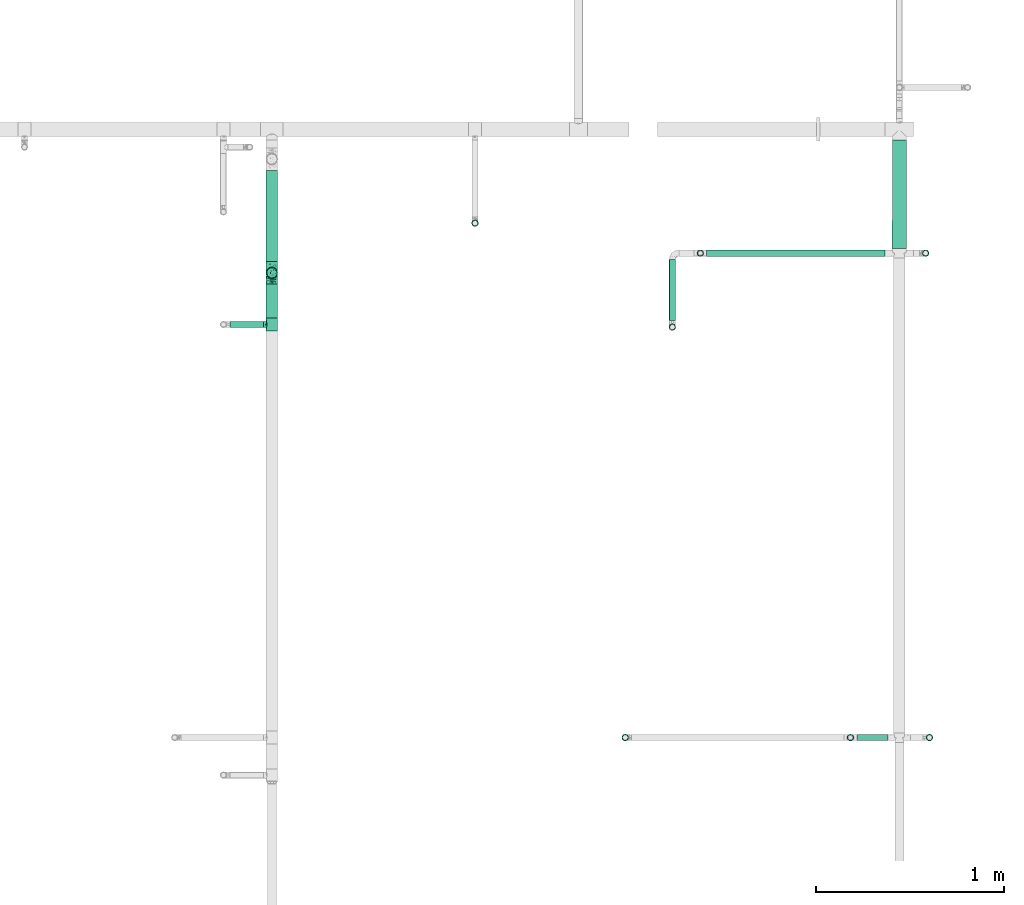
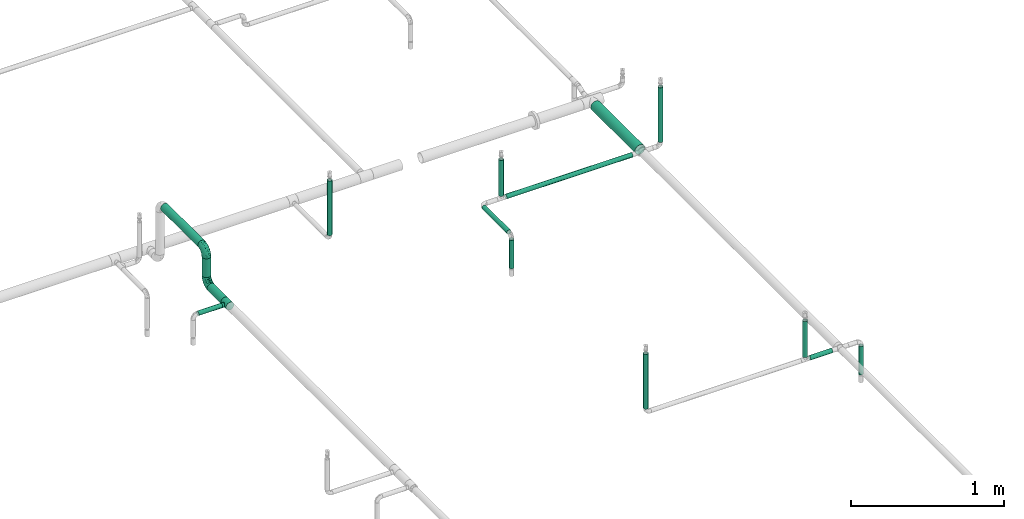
# One storey, part 15 of 157: 15 flow segments, 3 flow fittings.
"""IFC2X3 building model written with IfcOpenShell, lengths in millimetres."""

from ifc_helpers import new_model, entity, si_unit, converted_unit, derived_unit, direction, frame, origin_with_axes, origin_2d_with_axis, place, context, subcontext, project, spatial, hollow_circle, extrude, open_shell, surface_model, source, transform, mapped, type_object, element, save


model = new_model("IFC2X3")

# Units and contexts
model_context = context("Model", 3, precision=0.01, world=frame((0.0, 4.29681676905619e-09, 0.0)), true_north=direction((4.01073788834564e-13, 1.0)))
plan_context = context("Plan", 3, precision=0.01, world=frame((0.0, 4.29681676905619e-09, 0.0)), true_north=direction((4.01073788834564e-13, 1.0)))
body_context = subcontext(model_context, "Body", "Model", "MODEL_VIEW")
ifc_project = project(units=[converted_unit("PLANEANGLEUNIT", "DEGREE", entity("IfcPositiveLengthMeasure", 0.0174532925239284), si_unit("PLANEANGLEUNIT", "RADIAN"), dimensions=[0, 0, 0, 0, 0, 0, 0]), si_unit("AREAUNIT", "SQUARE_METRE"), si_unit("LENGTHUNIT", "METRE", prefix="MILLI"), si_unit("MASSUNIT", "GRAM", prefix="KILO"), si_unit("POWERUNIT", "WATT"), si_unit("PRESSUREUNIT", "PASCAL"), si_unit("FORCEUNIT", "NEWTON", prefix="KILO"), si_unit("ELECTRICCURRENTUNIT", "AMPERE"), si_unit("THERMODYNAMICTEMPERATUREUNIT", "DEGREE_CELSIUS"), si_unit("TIMEUNIT", "SECOND"), si_unit("VOLUMEUNIT", "CUBIC_METRE"), derived_unit("LINEARVELOCITYUNIT", [(si_unit("LENGTHUNIT", "METRE"), 1), (si_unit("TIMEUNIT", "SECOND"), -1)]), derived_unit("VOLUMETRICFLOWRATEUNIT", [(si_unit("VOLUMEUNIT", "CUBIC_METRE"), 1), (si_unit("TIMEUNIT", "SECOND"), -1)]), derived_unit("THERMALTRANSMITTANCEUNIT", [(si_unit("POWERUNIT", "WATT"), 1), (si_unit("THERMODYNAMICTEMPERATUREUNIT", "KELVIN"), -1), (si_unit("AREAUNIT", "SQUARE_METRE"), -1)])], contexts=[model_context, plan_context])

# Site, building, storey
site_placement = place(None, frame((0.0, -4.29681676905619e-09, 0.0), z_axis=(0.0, 0.0, 1.0), x_axis=(1.0, 0.0, 0.0)))
site = spatial("IfcSite", under=ifc_project, at=site_placement, CompositionType="ELEMENT")
building_placement = place(site_placement, frame((0.0, 4.29681676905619e-09, 0.0), z_axis=(0.0, 0.0, 1.0), x_axis=(1.0, 0.0, 0.0)))
building = spatial("IfcBuilding", under=site, at=building_placement, Name="mc-building", CompositionType="ELEMENT")
storey_placement = place(building_placement, frame((0.0, 0.0, 204000.0), z_axis=(0.0, 0.0, 1.0), x_axis=(1.0, 0.0, 0.0)))
storey = spatial("IfcBuildingStorey", under=building, at=storey_placement, Name="Nivå D", CompositionType="ELEMENT", Elevation=204000.0)

# Flow fittings
pipe_fitting_type_1 = type_object("IfcPipeFittingType", Name="magi_pipe_fe_elbow_short_001", PredefinedType="BEND")
shared_shape_1 = source(origin_with_axes(), body_context, "Body", "SurfaceModel", [
    surface_model("IfcShellBasedSurfaceModel", [(-60.4, 15.1, -26.15397), (-60.4, 7.81634, -29.17096), (-60.4, 0.0, -30.2), (-60.4, -21.35462, -21.35462), (-60.4, 26.15397, -15.1), (-60.4, 21.35462, -21.35462), (-60.4, 29.17096, -7.81634), (-60.4, -15.1, -26.15397), (-60.4, -7.81634, -29.17096), (-60.4, -26.15397, -15.1), (-60.4, -29.17096, -7.81634), (-60.4, -30.2, 0.0), (-60.4, -29.17096, 7.81634), (-60.4, 29.17096, 7.81634), (-60.4, -21.35462, 21.35462), (-60.4, 26.15397, 15.1), (-60.4, 21.35462, 21.35462), (-60.4, 7.81634, 29.17096), (-60.4, 15.1, 26.15397), (-60.4, -26.15397, 15.1), (-60.4, -7.81634, 29.17096), (-60.4, 0.0, 30.2), (-60.4, -15.1, 26.15397), (-60.4, 30.2, 0.0), (0.0, 60.4, -30.2), (-7.81634, 60.4, -29.17096), (-15.1, 60.4, -26.15397), (-26.15397, 60.4, -15.1), (-29.17096, 60.4, -7.81634), (-21.35462, 60.4, -21.35462), (29.17096, 60.4, -7.81634), (7.81634, 60.4, -29.17096), (21.35462, 60.4, -21.35462), (15.1, 60.4, -26.15397), (26.15397, 60.4, -15.1), (29.17096, 60.4, 7.81634), (30.2, 60.4, 0.0), (-29.17096, 60.4, 7.81634), (21.35462, 60.4, 21.35462), (-21.35462, 60.4, 21.35462), (-26.15397, 60.4, 15.1), (-15.1, 60.4, 26.15397), (-7.81634, 60.4, 29.17096), (26.15397, 60.4, 15.1), (15.1, 60.4, 26.15397), (0.0, 60.4, 30.2), (7.81634, 60.4, 29.17096), (-30.2, 60.4, 0.0), (-40.79975, -26.48639, 9.49143), (-44.2927, -23.46036, 16.95222), (-32.40306, -25.76572, 0.0), (-45.54716, -27.84754, 0.0), (-7.73382, -10.42985, 11.64553), (-2.102, -8.06735, 6.35117), (1.74449, -1.74448, 12.51332), (-46.13593, -4.00068, 29.68351), (-42.2898, 4.62925, 30.14853), (10.31662, 7.37496, 11.34434), (18.44156, 24.57514, 15.02148), (7.07276, 10.95732, 19.27498), (-30.06693, -0.27102, 29.27145), (-44.17726, -11.39441, 27.16031), (-23.4551, -7.13383, 25.24246), (-38.74025, -17.25266, 22.43475), (-27.059, -23.14697, 6.2131), (-19.77486, -19.33133, 0.0), (-10.95732, -7.07276, 19.27498), (-5.39458, 5.39458, 24.69106), (-29.52069, 48.20084, 13.12597), (-25.22813, 47.01796, 19.8404), (-11.27311, 52.093, 28.2877), (-4.13904, 45.17494, 30.12582), (-46.55352, 11.8443, 28.52822), (-7.88305, 20.22717, 29.65331), (-15.00576, 5.54025, 28.20072), (-3.0852, 16.31623, 27.75343), (-52.24998, 18.2886, 24.60768), (-10.49591, 29.69865, 30.14582), (-22.36958, 22.36958, 29.4662), (-17.98262, 13.19715, 30.04443), (-47.74519, 32.16745, 6.63994), (-48.21585, 29.51581, 13.12396), (-37.49729, 37.49729, 11.28901), (-47.20967, 25.1754, 19.81929), (17.25266, 38.74025, 22.43475), (-31.32046, 40.03273, 17.09289), (11.39441, 44.17725, 27.16031), (23.46036, 44.2927, 16.95222), (26.48639, 40.79975, 9.49143), (-7.14666, -12.89694, 0.0), (-14.66463, -16.61192, 7.82462), (4.00068, 46.13593, 29.68351), (-33.18602, 12.93608, 29.65955), (-29.63414, 7.40029, 30.18711), (19.33133, 19.77486, 0.0), (23.14697, 27.059, 6.2131), (16.61192, 14.66463, 7.82462), (27.84754, 45.54716, 0.0), (-32.10611, 20.49149, 27.93323), (-24.57514, -18.44156, 15.02148), (-21.89487, 39.03366, 25.38224), (-18.45005, 50.6405, 24.73297), (-31.78933, 48.71949, 6.47886), (-37.84917, 39.61073, 5.315), (13.91334, 24.32737, 20.46816), (7.13383, 23.4551, 25.24246), (-34.24603, 45.3, 0.0), (-27.95749, 31.89166, 24.81537), (-41.58677, 20.50028, 25.43151), (-0.46157, 0.46157, 17.84239), (-17.23338, 31.26213, 29.03145), (-24.05994, 29.23812, 27.47858), (-13.06094, 40.92174, 28.76128), (-31.83392, 33.72702, 21.39203), (-38.78737, 32.45032, 16.84022), (0.27102, 30.06693, 29.27145), (-24.21469, -13.23741, 21.05734), (8.23548, 2.19333, 6.02161), (25.76572, 32.40306, 0.0), (12.89694, 7.14666, 0.0), (-45.3, 34.24603, 0.0), (2.87514, -2.87514, 0.0), (-44.53432, 26.00869, -20.11577), (-48.18822, 29.5248, -13.12766), (-24.67192, -7.62159, -25.33714), (-26.22398, -0.37671, -28.72374), (-12.13397, -0.50536, -24.74577), (-47.80891, 3.81859, -30.10171), (-44.05719, -27.03585, -9.84546), (-37.94552, -22.39569, -16.35738), (-28.81663, -22.64668, -10.132), (-43.93799, 12.32789, -28.63778), (-33.27, 7.1392, -30.19348), (-26.0087, 44.53432, -20.11577), (-48.89164, 31.68872, -6.60822), (-18.95522, 47.41145, -24.9828), (-12.32789, 43.93799, -28.63778), (-38.42778, 38.42778, -7.21049), (18.04263, 43.69152, -22.80146), (10.42233, 38.24532, -26.85918), (11.90576, 51.00473, -27.48545), (-5.88381, -10.62327, -7.95335), (-5.9694, -7.83116, -13.76182), (3.24899, -2.56331, -7.96861), (-17.62229, 16.32998, -30.18286), (-28.62959, 17.86952, -29.30113), (-47.41145, 18.95522, -24.98279), (-50.84455, -24.04089, -17.54629), (-29.38053, 34.30665, -22.74674), (-27.91099, 27.91099, -26.51666), (-36.91219, 25.51094, -23.99233), (2.63361, -0.55507, -12.94367), (-43.69152, -18.04263, -22.80146), (22.39569, 37.94552, -16.35738), (27.03585, 44.05719, -9.84546), (22.64668, 28.81663, -10.132), (-51.00473, -11.90576, -27.48545), (3.80785, 44.49426, -29.64782), (-19.0921, -14.69952, -16.47487), (-22.5489, -12.31934, -21.1263), (-10.94772, -7.46239, -18.88204), (-32.95885, -13.78948, -23.71249), (-38.24532, -10.42233, -26.85918), (-44.49427, -3.80785, -29.64782), (-22.6301, 37.15314, -25.58239), (-31.68872, 48.89164, -6.60822), (-3.8186, 47.80891, -30.10171), (-10.66133, 10.66133, -28.51691), (0.37671, 26.22398, -28.72374), (1.27136, 14.18619, -25.18541), (-29.5248, 48.18821, -13.12766), (-36.27113, 36.27113, -14.88553), (24.04089, 50.84455, -17.54629), (17.50188, 24.2636, -16.21902), (9.73525, 11.44907, -16.75087), (12.31934, 22.5489, -21.1263), (6.24176, 25.78208, -26.38266), (-7.1392, 33.27, -30.19348), (-36.7166, 19.4356, -27.21946), (-18.00754, 29.38864, -29.15505), (-0.28629, 0.28629, -17.49884), (-13.98848, -16.88492, -5.19509), (15.48569, 15.00432, -11.24742), (16.88492, 13.98848, -5.19509), (3.55782, 9.20508, -21.18402), (-15.00432, -15.48569, -11.24742)], [open_shell([[[0, 1, 2]], [[0, 2, 3]], [[4, 0, 3]], [[5, 0, 4]], [[6, 4, 3]], [[7, 3, 8]], [[3, 2, 8]], [[9, 10, 3]], [[3, 10, 6]], [[11, 12, 10]], [[13, 6, 10]], [[13, 10, 14]], [[15, 13, 16]], [[17, 18, 16]], [[13, 17, 16]], [[17, 13, 14]], [[19, 14, 12]], [[12, 14, 10]], [[20, 21, 22]], [[17, 14, 22]], [[17, 22, 21]], [[13, 23, 6]], [[24, 25, 26]], [[24, 26, 27]], [[27, 28, 24]], [[27, 26, 29]], [[24, 28, 30]], [[31, 32, 33]], [[31, 24, 32]], [[32, 30, 34]], [[24, 30, 32]], [[30, 35, 36]], [[30, 28, 37]], [[38, 30, 37]], [[39, 37, 40]], [[39, 41, 42]], [[39, 42, 37]], [[38, 37, 42]], [[35, 38, 43]], [[30, 38, 35]], [[44, 45, 46]], [[44, 38, 42]], [[45, 44, 42]], [[28, 47, 37]], [[48, 49, 19]], [[50, 48, 51]], [[52, 53, 54]], [[12, 48, 19]], [[12, 51, 48]], [[21, 55, 56]], [[19, 49, 14]], [[57, 58, 59]], [[60, 61, 62]], [[63, 22, 14]], [[63, 61, 22]], [[64, 50, 65]], [[62, 66, 67]], [[40, 68, 69]], [[42, 70, 71]], [[17, 72, 18]], [[73, 74, 75]], [[18, 76, 16]], [[20, 55, 21]], [[77, 78, 79]], [[80, 81, 82]], [[15, 83, 81]], [[84, 38, 44]], [[23, 13, 80]], [[13, 15, 81]], [[68, 85, 69]], [[83, 15, 16]], [[21, 56, 17]], [[44, 86, 84]], [[16, 76, 83]], [[87, 58, 88]], [[40, 37, 68]], [[89, 90, 65]], [[45, 91, 46]], [[65, 90, 64]], [[45, 42, 71]], [[92, 93, 79]], [[88, 35, 43]], [[43, 38, 87]], [[87, 88, 43]], [[94, 95, 96]], [[88, 97, 35]], [[98, 72, 92]], [[49, 99, 63]], [[69, 100, 101]], [[82, 102, 103]], [[104, 105, 59]], [[106, 102, 47]], [[98, 107, 108]], [[102, 82, 68]], [[86, 44, 46]], [[69, 39, 40]], [[109, 54, 57]], [[110, 100, 111]], [[22, 61, 20]], [[101, 41, 39]], [[70, 42, 41]], [[112, 77, 71]], [[84, 86, 105]], [[96, 95, 58]], [[100, 69, 113]], [[72, 17, 56]], [[108, 113, 83]], [[81, 114, 82]], [[112, 110, 77]], [[91, 71, 115]], [[62, 61, 63]], [[55, 61, 60]], [[116, 99, 66]], [[74, 62, 67]], [[91, 86, 46]], [[105, 86, 115]], [[75, 105, 115]], [[109, 67, 66]], [[59, 105, 67]], [[48, 64, 99]], [[99, 49, 48]], [[63, 14, 49]], [[38, 84, 87]], [[58, 87, 84]], [[92, 72, 56]], [[76, 72, 108]], [[102, 68, 37]], [[82, 114, 85]], [[98, 111, 107]], [[112, 70, 101]], [[114, 83, 113]], [[82, 103, 80]], [[92, 79, 78]], [[115, 71, 77]], [[74, 79, 60]], [[77, 79, 73]], [[71, 91, 45]], [[86, 91, 115]], [[61, 55, 20]], [[56, 55, 60]], [[57, 54, 117]], [[104, 59, 58]], [[116, 66, 62]], [[52, 99, 90]], [[12, 11, 51]], [[97, 88, 118]], [[97, 36, 35]], [[53, 90, 89]], [[90, 53, 52]], [[94, 96, 119]], [[88, 95, 118]], [[117, 54, 53]], [[92, 56, 93]], [[98, 92, 78]], [[111, 98, 78]], [[72, 98, 108]], [[110, 111, 78]], [[107, 111, 100]], [[47, 102, 37]], [[102, 106, 103]], [[106, 120, 103]], [[103, 120, 80]], [[23, 80, 120]], [[13, 81, 80]], [[56, 60, 93]], [[60, 79, 93]], [[117, 121, 119]], [[121, 117, 53]], [[53, 89, 121]], [[119, 96, 117]], [[117, 96, 57]], [[77, 110, 78]], [[100, 110, 112]], [[83, 114, 81]], [[85, 114, 113]], [[69, 85, 113]], [[82, 85, 68]], [[109, 52, 54]], [[99, 52, 66]], [[69, 101, 39]], [[112, 101, 100]], [[100, 113, 107]], [[108, 107, 113]], [[62, 74, 60]], [[75, 74, 67]], [[105, 75, 67]], [[73, 75, 115]], [[77, 73, 115]], [[74, 73, 79]], [[99, 64, 90]], [[50, 64, 48]], [[118, 95, 94]], [[58, 95, 88]], [[58, 57, 96]], [[109, 57, 59]], [[72, 76, 18]], [[83, 76, 108]], [[101, 70, 41]], [[71, 70, 112]], [[58, 84, 104]], [[105, 104, 84]], [[67, 109, 59]], [[52, 109, 66]], [[62, 63, 116]], [[99, 116, 63]], [[122, 4, 123]], [[124, 125, 126]], [[2, 1, 127]], [[128, 129, 130]], [[127, 131, 132]], [[27, 29, 133]], [[120, 134, 23]], [[135, 26, 136]], [[123, 134, 137]], [[138, 139, 140]], [[122, 5, 4]], [[141, 142, 143]], [[144, 132, 145]], [[131, 0, 146]], [[128, 9, 147]], [[148, 149, 150]], [[128, 51, 10]], [[142, 151, 143]], [[152, 3, 7]], [[153, 154, 155]], [[156, 152, 7]], [[31, 157, 24]], [[158, 159, 160]], [[147, 9, 3]], [[129, 152, 161]], [[156, 7, 8]], [[162, 163, 125]], [[154, 34, 30]], [[120, 106, 137]], [[149, 148, 164]], [[47, 28, 165]], [[163, 8, 2]], [[4, 6, 123]], [[25, 166, 136]], [[167, 168, 169]], [[170, 133, 171]], [[25, 24, 166]], [[33, 32, 138]], [[157, 31, 140]], [[28, 27, 170]], [[32, 34, 172]], [[26, 135, 29]], [[132, 131, 145]], [[31, 33, 140]], [[173, 174, 175]], [[169, 168, 176]], [[25, 136, 26]], [[175, 138, 173]], [[168, 177, 157]], [[163, 162, 156]], [[153, 172, 154]], [[9, 128, 10]], [[154, 97, 118]], [[131, 178, 145]], [[0, 5, 146]], [[175, 139, 138]], [[155, 118, 94]], [[131, 1, 0]], [[146, 178, 131]], [[170, 137, 165]], [[149, 179, 145]], [[171, 133, 148]], [[160, 180, 142]], [[65, 181, 89]], [[170, 165, 28]], [[137, 171, 123]], [[172, 138, 32]], [[138, 153, 173]], [[168, 157, 139]], [[166, 157, 177]], [[176, 175, 169]], [[168, 167, 144]], [[154, 30, 97]], [[155, 182, 173]], [[162, 124, 161]], [[147, 152, 129]], [[127, 163, 2]], [[132, 144, 125]], [[132, 125, 163]], [[125, 167, 126]], [[129, 158, 130]], [[30, 36, 97]], [[143, 182, 183]], [[169, 126, 167]], [[5, 122, 146]], [[178, 150, 149]], [[136, 179, 164]], [[133, 29, 135]], [[123, 6, 134]], [[122, 123, 171]], [[133, 170, 27]], [[137, 170, 171]], [[184, 175, 174]], [[180, 160, 126]], [[126, 169, 184]], [[126, 159, 124]], [[51, 128, 50]], [[51, 11, 10]], [[131, 127, 1]], [[163, 127, 132]], [[157, 166, 24]], [[136, 166, 177]], [[164, 179, 149]], [[144, 167, 125]], [[179, 144, 145]], [[168, 144, 177]], [[136, 177, 179]], [[144, 179, 177]], [[141, 121, 89]], [[89, 181, 141]], [[154, 118, 155]], [[183, 155, 94]], [[143, 183, 119]], [[119, 183, 94]], [[155, 183, 182]], [[181, 130, 185]], [[50, 128, 130]], [[130, 181, 65]], [[50, 130, 65]], [[141, 181, 185]], [[142, 141, 185]], [[143, 121, 141]], [[158, 160, 142]], [[142, 180, 151]], [[158, 142, 185]], [[126, 160, 159]], [[130, 158, 185]], [[129, 159, 158]], [[23, 134, 6]], [[120, 137, 134]], [[137, 106, 165]], [[47, 165, 106]], [[174, 151, 180]], [[182, 143, 151]], [[150, 146, 122]], [[149, 145, 178]], [[146, 150, 178]], [[122, 171, 148]], [[148, 150, 122]], [[164, 133, 135]], [[133, 164, 148]], [[164, 135, 136]], [[138, 140, 33]], [[157, 140, 139]], [[154, 172, 34]], [[138, 172, 153]], [[163, 156, 8]], [[152, 156, 162]], [[152, 147, 3]], [[128, 147, 129]], [[155, 173, 153]], [[174, 173, 182]], [[151, 174, 182]], [[174, 180, 184]], [[126, 184, 180]], [[175, 184, 169]], [[168, 139, 176]], [[175, 176, 139]], [[161, 124, 159]], [[125, 124, 162]], [[129, 161, 159]], [[162, 161, 152]], [[143, 119, 121]]])]),
])
for number, where, z_axis, x_axis, name in (
    (1, (527758.2357, 413275.00434, 3150.0), (1.0, 0.0, 0.0), (0.0, -1.0, 0.0), "magi_pipe_fe_elbow_short_001"),
    (2, (527758.2357, 413275.00434, 2880.0), (-1.0, 0.0, 0.0), (0.0, 0.0, -1.0), "magi_pipe_fe_elbow_short_001"),
):
    element("IfcFlowFitting", number, at=place(storey_placement, frame(where, z_axis=z_axis, x_axis=x_axis)), inside=storey, type_object=pipe_fitting_type_1, Name=name, context=body_context, shape_type="MappedRepresentation", body=[
        mapped(shared_shape_1, transform((0.0, 0.0, 0.0), scale=1.0)),
    ])
pipe_fitting_type_2 = type_object("IfcPipeFittingType", Name="magi_pipe_fe_tee_centric_90_NOR", PredefinedType="JUNCTION")
shared_shape_2 = source(origin_with_axes(), body_context, "Body", "SurfaceModel", [
    surface_model("IfcShellBasedSurfaceModel", [(-33.8, 15.1, -26.15397), (-33.8, 7.81634, -29.17096), (-33.8, 0.0, -30.2), (-33.8, 29.17096, -7.81634), (-33.8, 26.15397, -15.1), (-33.8, 21.35462, -21.35462), (-33.8, 30.2, 0.0), (-33.8, -30.2, 0.0), (-33.8, -15.1, -26.15397), (-33.8, -21.35462, -21.35462), (-33.8, -7.81634, -29.17096), (-33.8, -26.15397, -15.1), (-33.8, -29.17096, -7.81634), (-33.8, 26.15397, 15.1), (-33.8, 29.17096, 7.81634), (-33.8, 15.1, 26.15397), (-33.8, -21.35462, 21.35462), (-33.8, 21.35462, 21.35462), (-33.8, 7.81634, 29.17096), (-33.8, -29.17096, 7.81634), (-33.8, -26.15397, 15.1), (-33.8, -7.81634, 29.17096), (-33.8, 0.0, 30.2), (-33.8, -15.1, 26.15397), (33.8, 29.17096, -7.81634), (33.8, 0.0, -30.2), (33.8, 7.81634, -29.17096), (33.8, 21.35462, -21.35462), (33.8, 15.1, -26.15397), (33.8, 26.15397, -15.1), (33.8, -30.2, 0.0), (33.8, -7.81634, -29.17096), (33.8, -21.35462, -21.35462), (33.8, -15.1, -26.15397), (33.8, -29.17096, -7.81634), (33.8, -26.15397, -15.1), (33.8, 30.2, 0.0), (33.8, 29.17096, 7.81634), (33.8, 26.15397, 15.1), (33.8, -29.17096, 7.81634), (33.8, 15.1, 26.15397), (33.8, 7.81634, 29.17096), (33.8, 21.35462, 21.35462), (33.8, -21.35462, 21.35462), (33.8, -26.15397, 15.1), (33.8, -15.1, 26.15397), (33.8, 0.0, 30.2), (33.8, -7.81634, 29.17096), (33.8, -29.68548, 3.90817), (15.846, -29.62306, 5.87488), (16.373, -29.91153, 2.93744), (12.91037, -28.16217, 10.90561), (2.99213, -25.2068, 16.63301), (16.9, -30.2, 0.0), (33.8, -27.66246, 11.45817), (8.50854, -26.43531, 14.60187), (-8.51006, -26.43579, 14.60099), (-33.8, -27.66246, 11.45817), (-12.91447, -28.16405, 10.90075), (-15.84655, -29.62335, 5.87341), (-33.8, -29.68548, 3.90817), (-16.37327, -29.91168, 2.93671), (-16.9, -30.2, 0.0), (-2.99705, -25.20739, 16.63213), (2.99213, -25.2068, -16.63301), (-16.37327, -29.91168, -2.93671), (8.50854, -26.43531, -14.60187), (33.8, -27.66246, -11.45817), (16.373, -29.91153, -2.93744), (-33.8, -29.68548, -3.90817), (-15.84655, -29.62335, -5.87341), (15.846, -29.62306, -5.87488), (12.91037, -28.16217, -10.90561), (33.8, -29.68548, -3.90817), (-2.99705, -25.20739, -16.63213), (-8.51006, -26.43579, -14.60099), (-12.91447, -28.16405, -10.90075), (-33.8, -27.66246, -11.45817), (4.37404, -45.3, -16.32415), (-16.9, -45.3, 0.0), (0.0, -45.3, -16.9), (14.63583, -45.3, -8.45), (8.45, -45.3, -14.63583), (16.32415, -45.3, -4.37404), (11.9501, -45.3, -11.9501), (-11.9501, -45.3, -11.9501), (-8.45, -45.3, -14.63583), (-4.37404, -45.3, -16.32415), (-14.63583, -45.3, -8.45), (-16.32415, -45.3, -4.37404), (16.9, -45.3, 0.0), (8.45, -45.3, 14.63583), (16.32415, -45.3, 4.37404), (14.63583, -45.3, 8.45), (-8.45, -45.3, 14.63583), (11.9501, -45.3, 11.9501), (4.37404, -45.3, 16.32415), (-16.32415, -45.3, 4.37404), (-11.9501, -45.3, 11.9501), (-14.63583, -45.3, 8.45), (0.0, -45.3, 16.9), (-4.37404, -45.3, 16.32415), (-5.75355, -25.82159, 15.61656), (-0.00246, -25.20709, 16.63257), (5.75034, -25.82105, 15.61744), (5.75034, -25.82105, -15.61744), (-0.00246, -25.20709, -16.63257), (-5.75355, -25.82159, -15.61656)], [open_shell([[[0, 1, 2]], [[3, 0, 2]], [[0, 3, 4]], [[5, 0, 4]], [[6, 2, 7]], [[8, 9, 10]], [[9, 2, 10]], [[11, 12, 9]], [[7, 9, 12]], [[9, 7, 2]], [[6, 3, 2]], [[13, 14, 6]], [[7, 15, 13]], [[7, 16, 15]], [[17, 13, 15]], [[18, 15, 16]], [[19, 20, 7]], [[7, 20, 16]], [[21, 22, 23]], [[16, 23, 22]], [[16, 22, 18]], [[7, 13, 6]], [[24, 25, 26]], [[27, 26, 28]], [[29, 24, 26]], [[29, 26, 27]], [[25, 24, 30]], [[31, 32, 33]], [[32, 31, 34]], [[32, 34, 35]], [[34, 31, 30]], [[31, 25, 30]], [[24, 36, 30]], [[36, 37, 38]], [[39, 36, 38]], [[40, 41, 38]], [[40, 38, 42]], [[43, 38, 41]], [[39, 43, 44]], [[39, 38, 43]], [[45, 46, 47]], [[46, 45, 43]], [[41, 46, 43]], [[36, 39, 30]], [[48, 39, 49]], [[30, 48, 50]], [[39, 51, 49]], [[44, 43, 52]], [[30, 50, 53]], [[51, 54, 55]], [[52, 55, 44]], [[48, 49, 50]], [[43, 16, 52]], [[55, 54, 44]], [[56, 57, 58]], [[59, 60, 61]], [[62, 61, 7]], [[59, 58, 19]], [[56, 63, 20]], [[51, 39, 54]], [[20, 57, 56]], [[20, 63, 16]], [[58, 57, 19]], [[63, 52, 16]], [[7, 61, 60]], [[59, 19, 60]], [[43, 23, 16]], [[22, 47, 46]], [[21, 45, 47]], [[18, 46, 41]], [[38, 37, 14]], [[17, 40, 42]], [[13, 42, 38]], [[41, 40, 15]], [[6, 37, 36]], [[23, 45, 21]], [[21, 47, 22]], [[18, 22, 46]], [[41, 15, 18]], [[15, 40, 17]], [[13, 17, 42]], [[14, 13, 38]], [[37, 6, 14]], [[45, 23, 43]], [[4, 24, 29]], [[3, 36, 24]], [[5, 29, 27]], [[25, 31, 10]], [[1, 28, 26]], [[2, 26, 25]], [[27, 28, 0]], [[8, 31, 33]], [[6, 36, 3]], [[3, 24, 4]], [[5, 4, 29]], [[27, 0, 5]], [[0, 28, 1]], [[2, 1, 26]], [[10, 2, 25]], [[31, 8, 10]], [[33, 9, 8]], [[32, 35, 64]], [[7, 65, 62]], [[66, 64, 35]], [[67, 66, 35]], [[32, 64, 9]], [[53, 68, 30]], [[69, 70, 65]], [[71, 72, 34]], [[71, 73, 68]], [[66, 67, 72]], [[34, 72, 67]], [[74, 75, 11]], [[76, 12, 77]], [[11, 9, 74]], [[76, 77, 75]], [[74, 9, 64]], [[76, 70, 12]], [[71, 34, 73]], [[70, 69, 12]], [[65, 7, 69]], [[30, 68, 73]], [[77, 11, 75]], [[32, 9, 33]], [[78, 79, 80]], [[81, 78, 82]], [[81, 83, 78]], [[81, 82, 84]], [[79, 78, 83]], [[80, 85, 86]], [[86, 87, 80]], [[88, 79, 89]], [[85, 80, 88]], [[79, 88, 80]], [[83, 90, 79]], [[91, 90, 92]], [[91, 92, 93]], [[94, 79, 91]], [[91, 93, 95]], [[94, 91, 96]], [[97, 98, 99]], [[98, 97, 94]], [[94, 100, 101]], [[97, 79, 94]], [[96, 100, 94]], [[91, 79, 90]], [[97, 61, 79]], [[58, 99, 98]], [[97, 99, 59]], [[98, 94, 56]], [[61, 62, 79]], [[59, 99, 58]], [[101, 63, 102]], [[56, 58, 98]], [[100, 52, 103]], [[91, 104, 96]], [[100, 96, 52]], [[50, 49, 92]], [[50, 90, 53]], [[104, 91, 55]], [[102, 94, 101]], [[102, 56, 94]], [[100, 63, 101]], [[97, 59, 61]], [[55, 91, 95]], [[95, 51, 55]], [[52, 96, 104]], [[92, 49, 93]], [[90, 50, 92]], [[93, 49, 51]], [[93, 51, 95]], [[103, 63, 100]], [[83, 68, 90]], [[72, 81, 84]], [[83, 81, 71]], [[84, 82, 66]], [[68, 53, 90]], [[71, 81, 72]], [[78, 64, 105]], [[66, 72, 84]], [[80, 74, 106]], [[86, 107, 87]], [[65, 70, 89]], [[105, 82, 78]], [[105, 66, 82]], [[75, 86, 85]], [[83, 71, 68]], [[70, 88, 89]], [[65, 79, 62]], [[85, 88, 76]], [[80, 64, 78]], [[87, 107, 74]], [[74, 80, 87]], [[75, 107, 86]], [[75, 85, 76]], [[76, 88, 70]], [[79, 65, 89]], [[106, 64, 80]]])]),
])
flow_fitting_placement = place(storey_placement, frame((527758.2357, 413000.0, 2880.0), z_axis=(0.0, 0.0, -1.0), x_axis=(0.0, 1.0, 0.0)))
element("IfcFlowFitting", 3, at=flow_fitting_placement, inside=storey, type_object=pipe_fitting_type_2, Name="magi_pipe_fe_tee_centric_90_NOR", context=body_context, shape_type="MappedRepresentation", body=[
    mapped(shared_shape_2, transform((0.0, 0.0, 0.0), scale=1.0)),
])

# Flow segments
pipe_segment_type = type_object("IfcPipeSegmentType", Name="Stålrør normaltykke", PredefinedType="RIGIDSEGMENT")
shared_shape_3 = source(origin_with_axes(), body_context, "Body", "SweptSolid", [
    extrude(hollow_circle(Radius=16.9, WallThickness=2.0, at=origin_2d_with_axis()), frame((0.0, 0.0, 0.0), z_axis=(1.0, 0.0, 0.0), x_axis=(0.0, 1.0, 0.0)), (0.0, 0.0, 1.0), 435.5),
])
for number, where, z_axis, x_axis in (
    (4, (528840.35, 413540.00018, 3160.14799999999), (-1.0, 0.0, 0.0), (0.0, 0.0, -1.0)),
    (5, (531240.35, 413380.00018, 3160.14799999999), (0.0, -1.0, 0.0), (0.0, 0.0, -1.0)),
):
    element("IfcFlowSegment", number, at=place(storey_placement, frame(where, z_axis=z_axis, x_axis=x_axis)), inside=storey, type_object=pipe_segment_type, Name="Stålrør normaltykke", context=body_context, shape_type="MappedRepresentation", body=[
        mapped(shared_shape_3, transform((0.0, 0.0, 0.0), scale=1.0)),
    ])
shared_shape_4 = source(origin_with_axes(), body_context, "Body", "SweptSolid", [
    extrude(hollow_circle(Radius=16.9, WallThickness=2.0, at=origin_2d_with_axis()), frame((0.0, 0.0, 0.0), z_axis=(1.0, 0.0, 0.0), x_axis=(0.0, 1.0, 0.0)), (0.0, 0.0, 1.0), 179.1),
])
flow_segment_1_placement = place(storey_placement, frame((527533.8, 413000.0, 2880.0), z_axis=(0.0, 0.0, 1.0), x_axis=(1.0, 0.0, 0.0)))
element("IfcFlowSegment", 6, at=flow_segment_1_placement, inside=storey, type_object=pipe_segment_type, Name="Stålrør normaltykke", context=body_context, shape_type="MappedRepresentation", body=[
    mapped(shared_shape_4, transform((0.0, 0.0, 0.0), scale=1.0)),
])
shared_shape_5 = source(origin_with_axes(), body_context, "Body", "SweptSolid", [
    extrude(hollow_circle(Radius=16.9, WallThickness=2.0, at=origin_2d_with_axis()), frame((0.0, 0.0, 0.0), z_axis=(1.0, 0.0, 0.0), x_axis=(0.0, 1.0, 0.0)), (0.0, 0.0, 1.0), 226.8),
])
for number, where, z_axis, x_axis in (
    (7, (531260.79653, 410800.0, 2429.35200000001), (1.0, 0.0, 0.0), (0.0, 0.0, 1.0)),
    (8, (529891.33339, 412986.41959, 2429.35200000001), (0.0, 1.0, 0.0), (0.0, 0.0, 1.0)),
):
    element("IfcFlowSegment", number, at=place(storey_placement, frame(where, z_axis=z_axis, x_axis=x_axis)), inside=storey, type_object=pipe_segment_type, Name="Stålrør normaltykke", context=body_context, shape_type="MappedRepresentation", body=[
        mapped(shared_shape_5, transform((0.0, 0.0, 0.0), scale=1.0)),
    ])
shared_shape_6 = source(origin_with_axes(), body_context, "Body", "SweptSolid", [
    extrude(hollow_circle(Radius=30.1, WallThickness=2.0, at=origin_2d_with_axis()), frame((0.0, 0.0, 0.0), z_axis=(1.0, 0.0, 0.0), x_axis=(0.0, 1.0, 0.0)), (0.0, 0.0, 1.0), 149.2),
])
flow_segment_2_placement = place(storey_placement, frame((527758.2357, 413275.00434, 3089.60000000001), z_axis=(0.0, -1.0, 0.0), x_axis=(0.0, 0.0, -1.0)))
element("IfcFlowSegment", 9, at=flow_segment_2_placement, inside=storey, type_object=pipe_segment_type, Name="Stålrør normaltykke", context=body_context, shape_type="MappedRepresentation", body=[
    mapped(shared_shape_6, transform((0.0, 0.0, 0.0), scale=1.0)),
])
shared_shape_7 = source(origin_with_axes(), body_context, "Body", "SweptSolid", [
    extrude(hollow_circle(Radius=30.1, WallThickness=2.0, at=origin_2d_with_axis()), frame((0.0, 0.0, 0.0), z_axis=(1.0, 0.0, 0.0), x_axis=(0.0, 1.0, 0.0)), (0.0, 0.0, 1.0), 485.1),
])
flow_segment_3_placement = place(storey_placement, frame((527758.2357, 413820.51523, 3150.0), z_axis=(0.0, 0.0, 1.0), x_axis=(0.0, -1.0, 0.0)))
element("IfcFlowSegment", 10, at=flow_segment_3_placement, inside=storey, type_object=pipe_segment_type, Name="Stålrør normaltykke", context=body_context, shape_type="MappedRepresentation", body=[
    mapped(shared_shape_7, transform((0.0, 0.0, 0.0), scale=1.0)),
])
shared_shape_8 = source(origin_with_axes(), body_context, "Body", "SweptSolid", [
    extrude(hollow_circle(Radius=30.1, WallThickness=2.0, at=origin_2d_with_axis()), frame((0.0, 0.0, 0.0), z_axis=(1.0, 0.0, 0.0), x_axis=(0.0, 1.0, 0.0)), (0.0, 0.0, 1.0), 180.8),
])
flow_segment_4_placement = place(storey_placement, frame((527758.2357, 413214.60434, 2880.0), z_axis=(0.0, 0.0, 1.0), x_axis=(0.0, -1.0, 0.0)))
element("IfcFlowSegment", 11, at=flow_segment_4_placement, inside=storey, type_object=pipe_segment_type, Name="Stålrør normaltykke", context=body_context, shape_type="MappedRepresentation", body=[
    mapped(shared_shape_8, transform((0.0, 0.0, 0.0), scale=1.0)),
])
shared_shape_9 = source(origin_with_axes(), body_context, "Body", "SweptSolid", [
    extrude(hollow_circle(Radius=38.0, WallThickness=2.0, at=origin_2d_with_axis()), frame((0.0, 0.0, 0.0), z_axis=(1.0, 0.0, 0.0), x_axis=(0.0, 1.0, 0.0)), (0.0, 0.0, 1.0), 576.9),
])
flow_segment_5_placement = place(storey_placement, frame((531100.55939, 413405.35018, 2690.0), z_axis=(0.0, 0.0, 1.0), x_axis=(1.49999999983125e-05, 0.9999999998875, 0.0)))
element("IfcFlowSegment", 12, at=flow_segment_5_placement, inside=storey, type_object=pipe_segment_type, Name="Stålrør normaltykke", context=body_context, shape_type="MappedRepresentation", body=[
    mapped(shared_shape_9, transform((0.0, 0.0, 0.0), scale=1.0)),
])
shared_shape_10 = source(origin_with_axes(), body_context, "Body", "SweptSolid", [
    extrude(hollow_circle(Radius=16.9, WallThickness=2.0, at=origin_2d_with_axis()), frame((0.0, 0.0, 0.0), z_axis=(1.0, 0.0, 0.0), x_axis=(0.0, 1.0, 0.0)), (0.0, 0.0, 1.0), 437.3),
])
flow_segment_6_placement = place(storey_placement, frame((529640.35, 410800.0, 3161.14799999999), z_axis=(0.0, -1.0, 0.0), x_axis=(0.0, 0.0, -1.0)))
element("IfcFlowSegment", 13, at=flow_segment_6_placement, inside=storey, type_object=pipe_segment_type, Name="Stålrør normaltykke", context=body_context, shape_type="MappedRepresentation", body=[
    mapped(shared_shape_10, transform((0.0, 0.0, 0.0), scale=1.0)),
])
shared_shape_11 = source(origin_with_axes(), body_context, "Body", "SweptSolid", [
    extrude(hollow_circle(Radius=16.9, WallThickness=2.0, at=origin_2d_with_axis()), frame((0.0, 0.0, 0.0), z_axis=(1.0, 0.0, 0.0), x_axis=(0.0, 1.0, 0.0)), (0.0, 0.0, 1.0), 286.8),
])
for number, where, z_axis, x_axis in (
    (14, (530839.775, 410800.0, 2715.35000000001), (0.0, -1.0, 0.0), (0.0, 0.0, 1.0)),
    (15, (530040.35, 413380.00018, 3002.14799999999), (0.0, -1.0, 0.0), (0.0, 0.0, -1.0)),
):
    element("IfcFlowSegment", number, at=place(storey_placement, frame(where, z_axis=z_axis, x_axis=x_axis)), inside=storey, type_object=pipe_segment_type, Name="Stålrør normaltykke", context=body_context, shape_type="MappedRepresentation", body=[
        mapped(shared_shape_11, transform((0.0, 0.0, 0.0), scale=1.0)),
    ])
shared_shape_12 = source(origin_with_axes(), body_context, "Body", "SweptSolid", [
    extrude(hollow_circle(Radius=16.9, WallThickness=2.0, at=origin_2d_with_axis()), frame((0.0, 0.0, 0.0), z_axis=(1.0, 0.0, 0.0), x_axis=(0.0, 1.0, 0.0)), (0.0, 0.0, 1.0), 166.6),
])
flow_segment_7_placement = place(storey_placement, frame((531040.15939, 410800.0, 2690.0), z_axis=(0.0, 0.0, 1.0), x_axis=(-1.0, 0.0, 0.0)))
element("IfcFlowSegment", 16, at=flow_segment_7_placement, inside=storey, type_object=pipe_segment_type, Name="Stålrør normaltykke", context=body_context, shape_type="MappedRepresentation", body=[
    mapped(shared_shape_12, transform((0.0, 0.0, 0.0), scale=1.0)),
])
shared_shape_13 = source(origin_with_axes(), body_context, "Body", "SweptSolid", [
    extrude(hollow_circle(Radius=16.9, WallThickness=2.0, at=origin_2d_with_axis()), frame((0.0, 0.0, 0.0), z_axis=(1.0, 0.0, 0.0), x_axis=(0.0, 1.0, 0.0)), (0.0, 0.0, 1.0), 950.2),
])
flow_segment_8_placement = place(storey_placement, frame((531024.35939, 413380.00018, 2690.0), z_axis=(0.0, 0.0, 1.0), x_axis=(-1.0, 0.0, 0.0)))
element("IfcFlowSegment", 17, at=flow_segment_8_placement, inside=storey, type_object=pipe_segment_type, Name="Stålrør normaltykke", context=body_context, shape_type="MappedRepresentation", body=[
    mapped(shared_shape_13, transform((0.0, 0.0, 0.0), scale=1.0)),
])
shared_shape_14 = source(origin_with_axes(), body_context, "Body", "SweptSolid", [
    extrude(hollow_circle(Radius=16.9, WallThickness=2.0, at=origin_2d_with_axis()), frame((0.0, 0.0, 0.0), z_axis=(1.0, 0.0, 0.0), x_axis=(0.0, 1.0, 0.0)), (0.0, 0.0, 1.0), 326.0),
])
flow_segment_9_placement = place(storey_placement, frame((529891.33339, 413346.20018, 2690.0), z_axis=(0.0, 0.0, 1.0), x_axis=(0.0, -1.0, 0.0)))
element("IfcFlowSegment", 18, at=flow_segment_9_placement, inside=storey, type_object=pipe_segment_type, Name="Stålrør normaltykke", context=body_context, shape_type="MappedRepresentation", body=[
    mapped(shared_shape_14, transform((0.0, 0.0, 0.0), scale=1.0)),
])

save(model, "model.ifc")
